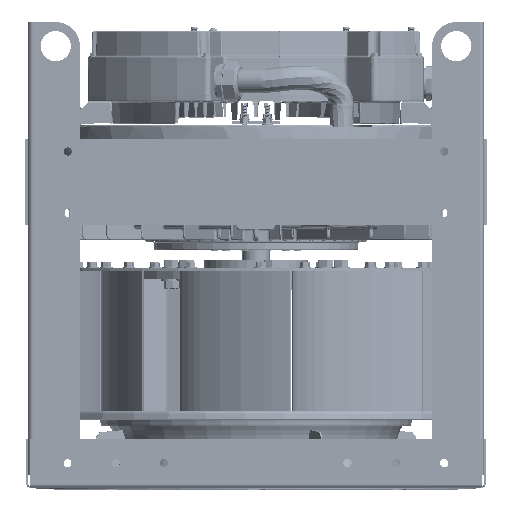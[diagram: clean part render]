
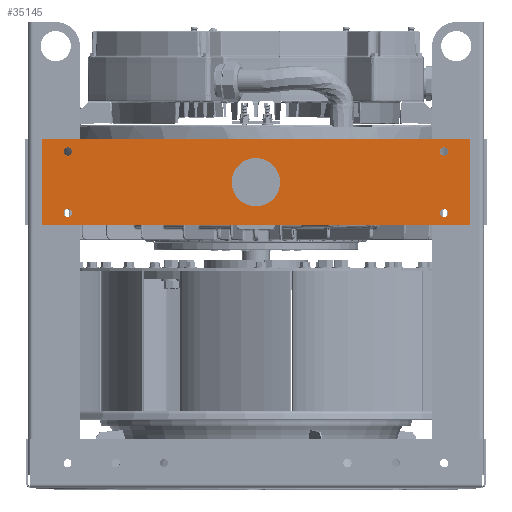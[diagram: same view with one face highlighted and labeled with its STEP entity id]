
A CAD part, front view. The second image highlights one B-rep face of the part: STEP entity #35145.
In plain terms, the highlighted planar face has unit normal (0, -1, 0) as drawn and (0, 0, -1) by its records, which use the part's own axes.
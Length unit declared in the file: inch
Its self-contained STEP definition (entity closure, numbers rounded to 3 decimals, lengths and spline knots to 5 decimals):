
#3130 = VERTEX_POINT ( 'NONE', #264928 ) ;
#5515 = AXIS2_PLACEMENT_3D ( 'NONE', #158160, #256910, #35104 ) ;
#10756 = CIRCLE ( 'NONE', #119394, 0.172 ) ;
#17111 = VERTEX_POINT ( 'NONE', #287516 ) ;
#21870 = CARTESIAN_POINT ( 'NONE',  ( 7.957, 1.27, 0. ) ) ;
#22201 = VERTEX_POINT ( 'NONE', #297366 ) ;
#29737 = DIRECTION ( 'NONE',  ( 1., 0., 0. ) ) ;
#31985 = ORIENTED_EDGE ( 'NONE', *, *, #201983, .T. ) ;
#33334 = EDGE_CURVE ( 'NONE', #181916, #80523, #150609, .T. ) ;
#35104 = DIRECTION ( 'NONE',  ( 1., 0., 0. ) ) ;
#35145 = ADVANCED_FACE ( 'NONE', ( #128225, #231743, #179958, #304648, #110338, #277192 ), #35833, .T. ) ;
#35833 = PLANE ( 'NONE',  #279513 ) ;
#36897 = ORIENTED_EDGE ( 'NONE', *, *, #133865, .T. ) ;
#38108 = CARTESIAN_POINT ( 'NONE',  ( 0., 1.77, 0. ) ) ;
#39691 = ORIENTED_EDGE ( 'NONE', *, *, #262336, .T. ) ;
#39721 = LINE ( 'NONE', #38108, #52476 ) ;
#41153 = VECTOR ( 'NONE', #191055, 39.37008 ) ;
#52476 = VECTOR ( 'NONE', #185394, 39.37008 ) ;
#55346 = DIRECTION ( 'NONE',  ( 0., 0., -1. ) ) ;
#63152 = CARTESIAN_POINT ( 'NONE',  ( -7.613, 1.27, 0. ) ) ;
#67772 = ORIENTED_EDGE ( 'NONE', *, *, #279217, .T. ) ;
#70641 = EDGE_CURVE ( 'NONE', #283411, #283411, #145095, .T. ) ;
#74028 = CARTESIAN_POINT ( 'NONE',  ( -8.865, 0., 0. ) ) ;
#80523 = VERTEX_POINT ( 'NONE', #315947 ) ;
#92724 = DIRECTION ( 'NONE',  ( 1., 0., 0. ) ) ;
#99203 = DIRECTION ( 'NONE',  ( 0., 0., 1. ) ) ;
#100803 = CARTESIAN_POINT ( 'NONE',  ( -7.785, -1.27, 0. ) ) ;
#110338 = FACE_BOUND ( 'NONE', #293316, .T. ) ;
#111847 = EDGE_LOOP ( 'NONE', ( #31985 ) ) ;
#115056 = LINE ( 'NONE', #291482, #41153 ) ;
#119394 = AXIS2_PLACEMENT_3D ( 'NONE', #185026, #261158, #92724 ) ;
#128225 = FACE_BOUND ( 'NONE', #111847, .T. ) ;
#131124 = DIRECTION ( 'NONE',  ( 0., 1., 0. ) ) ;
#133850 = DIRECTION ( 'NONE',  ( 1., 0., 0. ) ) ;
#133865 = EDGE_CURVE ( 'NONE', #22201, #22201, #200264, .T. ) ;
#142704 = EDGE_CURVE ( 'NONE', #3130, #304539, #268410, .T. ) ;
#145095 = CIRCLE ( 'NONE', #5515, 0.172 ) ;
#150609 = LINE ( 'NONE', #249357, #289718 ) ;
#157354 = AXIS2_PLACEMENT_3D ( 'NONE', #279055, #228821, #29737 ) ;
#158160 = CARTESIAN_POINT ( 'NONE',  ( -7.785, 1.27, 0. ) ) ;
#173093 = CARTESIAN_POINT ( 'NONE',  ( 1., 0., 0. ) ) ;
#177163 = ORIENTED_EDGE ( 'NONE', *, *, #312063, .F. ) ;
#179958 = FACE_BOUND ( 'NONE', #206899, .T. ) ;
#181916 = VERTEX_POINT ( 'NONE', #232217 ) ;
#185026 = CARTESIAN_POINT ( 'NONE',  ( 7.785, 1.27, 0. ) ) ;
#185394 = DIRECTION ( 'NONE',  ( -1., 0., 0. ) ) ;
#187970 = EDGE_CURVE ( 'NONE', #80523, #3130, #39721, .T. ) ;
#188313 = CIRCLE ( 'NONE', #157354, 1. ) ;
#189430 = EDGE_LOOP ( 'NONE', ( #67772 ) ) ;
#191055 = DIRECTION ( 'NONE',  ( 1., 0., 0. ) ) ;
#196607 = VERTEX_POINT ( 'NONE', #21870 ) ;
#197901 = DIRECTION ( 'NONE',  ( 1., 0., 0. ) ) ;
#200264 = CIRCLE ( 'NONE', #231273, 0.172 ) ;
#201983 = EDGE_CURVE ( 'NONE', #271906, #271906, #188313, .T. ) ;
#206899 = EDGE_LOOP ( 'NONE', ( #36897 ) ) ;
#208262 = EDGE_LOOP ( 'NONE', ( #266877, #236114, #311285, #177163 ) ) ;
#221355 = DIRECTION ( 'NONE',  ( 0., -1., 0. ) ) ;
#228821 = DIRECTION ( 'NONE',  ( 0., 0., 1. ) ) ;
#229346 = DIRECTION ( 'NONE',  ( 0., 0., 1. ) ) ;
#231273 = AXIS2_PLACEMENT_3D ( 'NONE', #100803, #99203, #197901 ) ;
#231743 = FACE_OUTER_BOUND ( 'NONE', #208262, .T. ) ;
#232098 = ORIENTED_EDGE ( 'NONE', *, *, #70641, .T. ) ;
#232217 = CARTESIAN_POINT ( 'NONE',  ( 8.865, -1.77, 0. ) ) ;
#233333 = CARTESIAN_POINT ( 'NONE',  ( 0., 0., 0. ) ) ;
#236114 = ORIENTED_EDGE ( 'NONE', *, *, #187970, .F. ) ;
#240477 = CARTESIAN_POINT ( 'NONE',  ( -8.865, -1.77, 0. ) ) ;
#242357 = VECTOR ( 'NONE', #221355, 39.37008 ) ;
#249357 = CARTESIAN_POINT ( 'NONE',  ( 8.865, 0., 0. ) ) ;
#256910 = DIRECTION ( 'NONE',  ( 0., 0., 1. ) ) ;
#261158 = DIRECTION ( 'NONE',  ( 0., 0., 1. ) ) ;
#262336 = EDGE_CURVE ( 'NONE', #17111, #17111, #270945, .T. ) ;
#264928 = CARTESIAN_POINT ( 'NONE',  ( -8.865, 1.77, 0. ) ) ;
#266877 = ORIENTED_EDGE ( 'NONE', *, *, #142704, .F. ) ;
#268410 = LINE ( 'NONE', #74028, #242357 ) ;
#270672 = EDGE_LOOP ( 'NONE', ( #232098 ) ) ;
#270945 = CIRCLE ( 'NONE', #281584, 0.172 ) ;
#271906 = VERTEX_POINT ( 'NONE', #173093 ) ;
#275587 = DIRECTION ( 'NONE',  ( -1., 0., 0. ) ) ;
#277192 = FACE_BOUND ( 'NONE', #189430, .T. ) ;
#279055 = CARTESIAN_POINT ( 'NONE',  ( 0., 0., 0. ) ) ;
#279217 = EDGE_CURVE ( 'NONE', #196607, #196607, #10756, .T. ) ;
#279513 = AXIS2_PLACEMENT_3D ( 'NONE', #233333, #55346, #275587 ) ;
#281584 = AXIS2_PLACEMENT_3D ( 'NONE', #282796, #229346, #133850 ) ;
#282796 = CARTESIAN_POINT ( 'NONE',  ( 7.785, -1.27, 0. ) ) ;
#283411 = VERTEX_POINT ( 'NONE', #63152 ) ;
#287516 = CARTESIAN_POINT ( 'NONE',  ( 7.957, -1.27, 0. ) ) ;
#289718 = VECTOR ( 'NONE', #131124, 39.37008 ) ;
#291482 = CARTESIAN_POINT ( 'NONE',  ( 0., -1.77, 0. ) ) ;
#293316 = EDGE_LOOP ( 'NONE', ( #39691 ) ) ;
#297366 = CARTESIAN_POINT ( 'NONE',  ( -7.613, -1.27, 0. ) ) ;
#304539 = VERTEX_POINT ( 'NONE', #240477 ) ;
#304648 = FACE_BOUND ( 'NONE', #270672, .T. ) ;
#311285 = ORIENTED_EDGE ( 'NONE', *, *, #33334, .F. ) ;
#312063 = EDGE_CURVE ( 'NONE', #304539, #181916, #115056, .T. ) ;
#315947 = CARTESIAN_POINT ( 'NONE',  ( 8.865, 1.77, 0. ) ) ;
